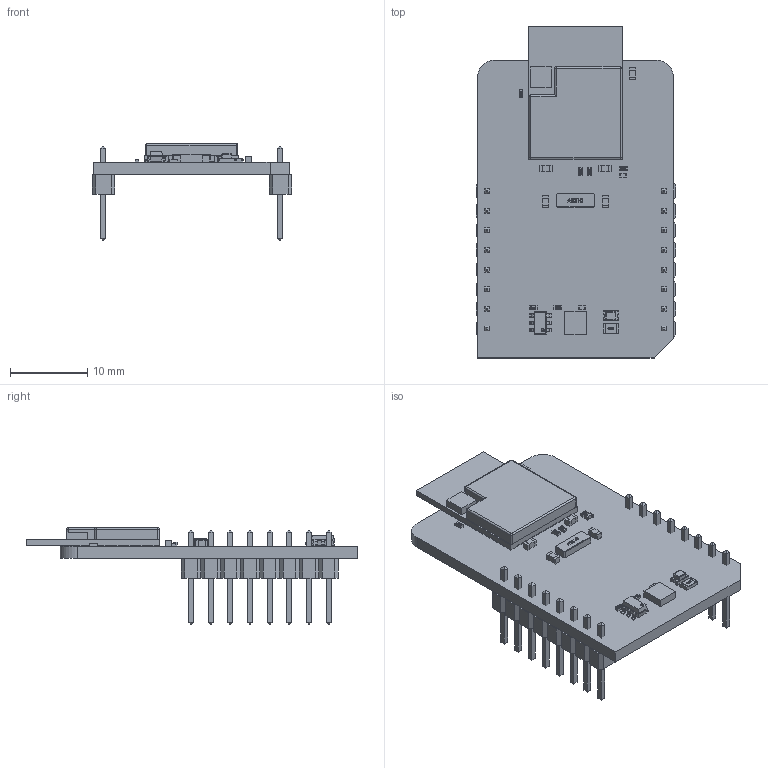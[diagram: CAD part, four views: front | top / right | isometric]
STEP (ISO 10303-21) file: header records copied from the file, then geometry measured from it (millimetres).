
FILE_DESCRIPTION(('Open CASCADE Model'),'2;1');
FILE_NAME('Open CASCADE Shape Model','2026-03-10T12:57:05',('Author'),( 'Open CASCADE'),'Open CASCADE STEP processor 6.8','Open CASCADE 6.8' ,'Unknown');
FILE_SCHEMA(('AUTOMOTIVE_DESIGN { 1 0 10303 214 1 1 1 1 }'));
Length unit declared in the file: millimetre
Products named in the file (38): PCB; Board; R5; User_Library-R_0402; U2; User_Library-SOT23-6-2; U1; 1092979576; Extruded; C1; User_Library-SMD_CAPACITOR0402; R3; R1; User_Library-R_0805; MBD1; Header_1x8; Free-Models; 1240637040; User_Library-PinHeaderX5-1_PinHeaderX5_Body_1; User_Library-PinHeaderX5-1_PinHeaderX5_Pins_1; LD1; led_0805_green; U3; ST67W611M1A6BTR; R2; C2; User_Library-SMD_CAPACITOR0603; C3; C4; C5; R4; C6; C7; Y1; Xtal_FC-255; R6; R7
Assembly tree (49 placements, depth 7):
  PCB
    Board
    R5
      User_Library-R_0402
    U2
      User_Library-SOT23-6-2
    U1
      1092979576
        Extruded
    C1
      User_Library-SMD_CAPACITOR0402
    R3
      User_Library-R_0402
    R1
      User_Library-R_0805
    MBD1
      Header_1x8  x2
        PCB
          Free-Models
            1240637040  x2
              User_Library-PinHeaderX5-1_PinHeaderX5_Body_1
              User_Library-PinHeaderX5-1_PinHeaderX5_Pins_1
    LD1
      led_0805_green
    U3
      ST67W611M1A6BTR
    R2
      User_Library-R_0402
    C2
      User_Library-SMD_CAPACITOR0603
    C3
      User_Library-SMD_CAPACITOR0603
    C4
      User_Library-SMD_CAPACITOR0603
    C5
      User_Library-SMD_CAPACITOR0402
    R4
      User_Library-R_0402
    C6
      User_Library-SMD_CAPACITOR0603
    C7
      User_Library-SMD_CAPACITOR0603
    Y1
      Xtal_FC-255
    R6
      User_Library-R_0402
    R7
      User_Library-R_0402
Bounding box: 25.78 x 42.97 x 12.51 mm (x, y, z)
Volume: 2431.3 mm3; surface area: 4181.4 mm2
Topology: 49 solids, 49 shells, 1929 faces, 4847 edges, 3044 vertices
Faces by surface type: plane 1463, bspline 231, cylinder 168, sphere 67
Entity records: 39766 total; most frequent: CARTESIAN_POINT 11362, ORIENTED_EDGE 4740, DIRECTION 4123, EDGE_CURVE 2370, LINE 1985, VECTOR 1985, VERTEX_POINT 1516, AXIS2_PLACEMENT_3D 1069
